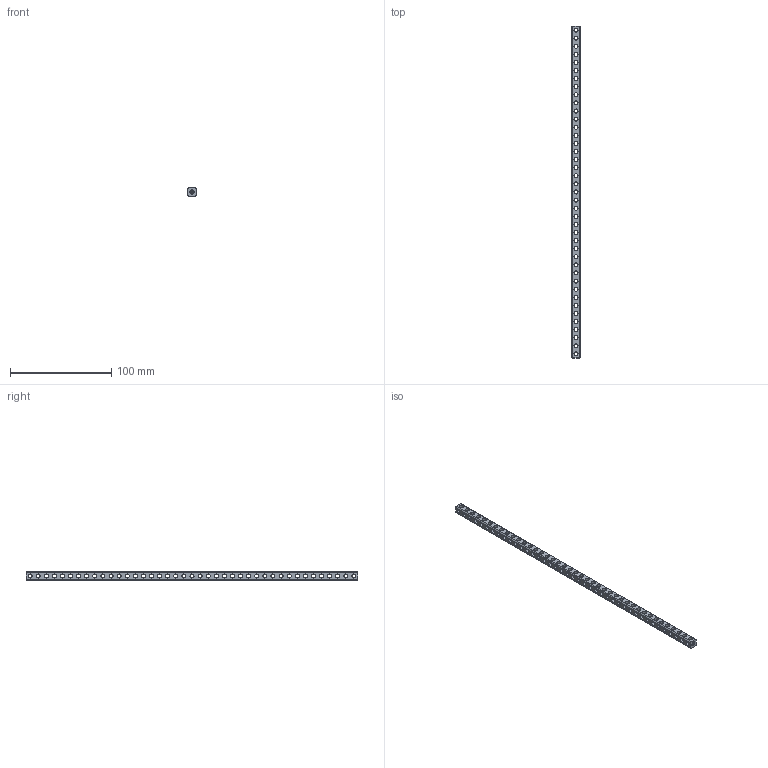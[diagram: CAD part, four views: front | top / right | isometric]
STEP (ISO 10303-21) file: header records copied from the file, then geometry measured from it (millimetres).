
FILE_DESCRIPTION (( 'STEP AP203' ), '1' );
FILE_NAME ('1119-0041-0328.STEP', '2017-04-18T19:24:56', ( '' ), ( '' ), 'SwSTEP 2.0', 'SolidWorks 2016', '' );
FILE_SCHEMA (( 'CONFIG_CONTROL_DESIGN' ));
Length unit declared in the file: millimetre
Products named in the file (1): 1119-0041-0328
Bounding box: 8 x 328 x 8 mm (x, y, z)
Volume: 13776.1 mm3; surface area: 13560.4 mm2
Topology: 1 solids, 1 shells, 486 faces, 1470 edges, 898 vertices
Faces by surface type: cylinder 440, bspline 34, cone 6, plane 6
Entity records: 54339 total; most frequent: CARTESIAN_POINT 42581, ORIENTED_EDGE 2940, DIRECTION 2018, EDGE_CURVE 1470, VERTEX_POINT 898, AXIS2_PLACEMENT_3D 799, EDGE_LOOP 652, FACE_OUTER_BOUND 486
